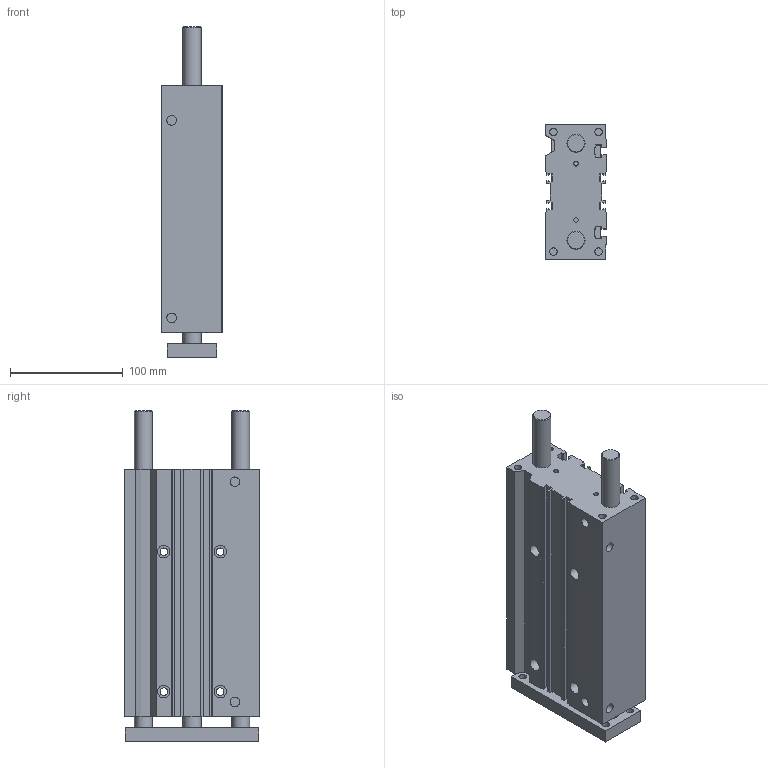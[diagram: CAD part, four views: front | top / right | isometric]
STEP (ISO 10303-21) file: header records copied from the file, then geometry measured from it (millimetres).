
FILE_DESCRIPTION((''),'2;1');
FILE_NAME('I:\Area Tecnica\Disegni\VARIE-3D\Componenti\6100\6100 Ø20-63\6100_##_###_#\6100400175C.stp','2012-01-11T09:11:44',('airolcr1'),(''),'Autodesk Inventor 2012','Autodesk Inventor 2012','');
FILE_SCHEMA(('AUTOMOTIVE_DESIGN { 1 0 10303 214 1 1 1 1 }'));
Length unit declared in the file: millimetre
Products named in the file (3): 6100400175C; CUCORPO Ø40 C175 C; CUPIASTRA Ø40 C175 C
Assembly tree (2 placements, depth 2):
  6100400175C
    CUCORPO Ø40 C175 C
    CUPIASTRA Ø40 C175 C
Bounding box: 54 x 120 x 293 mm (x, y, z)
Volume: 1391898.5 mm3; surface area: 200558.9 mm2
Topology: 2 solids, 2 shells, 166 faces, 417 edges, 277 vertices
Faces by surface type: plane 126, cylinder 38, cone 2
Full cylindrical faces by diameter (mm): 4 x6, 6.647 x8, 6.65 x4, 8.566 x4, 11 x4, 16 x6
Entity records: 5013 total; most frequent: CARTESIAN_POINT 815, DIRECTION 798, ORIENTED_EDGE 750, EDGE_CURVE 375, VECTOR 294, LINE 294, VERTEX_POINT 269, AXIS2_PLACEMENT_3D 252
